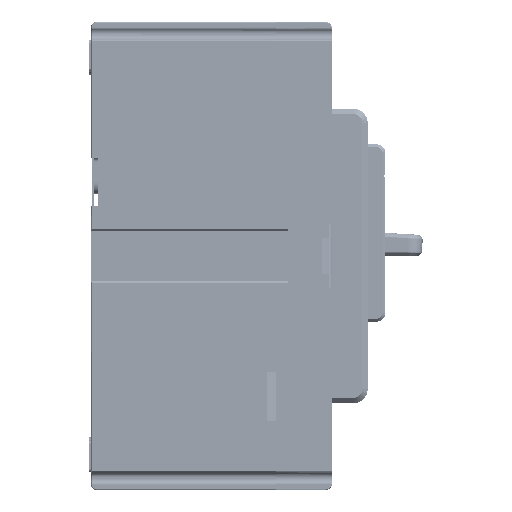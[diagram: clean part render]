
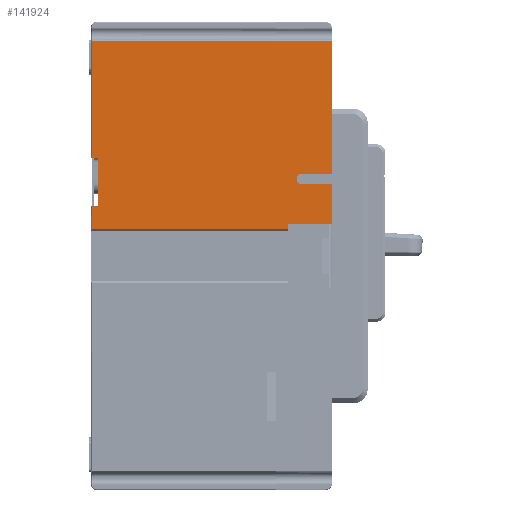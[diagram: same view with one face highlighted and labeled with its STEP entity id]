
A CAD part, left-side view. The second image highlights one B-rep face of the part: STEP entity #141924.
In plain terms, the highlighted planar face has unit normal (-1, 0, 0).
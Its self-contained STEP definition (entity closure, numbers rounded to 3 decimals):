
#4481=DIRECTION('',(0.,-1.,0.));
#4482=VECTOR('',#4481,12.2);
#4483=CARTESIAN_POINT('',(-63.5,-3.6,8.9));
#4484=LINE('',#4483,#4482);
#4552=DIRECTION('',(0.,0.,1.));
#4553=VECTOR('',#4552,1.4);
#4554=CARTESIAN_POINT('',(-63.5,-3.6,7.5));
#4555=LINE('',#4554,#4553);
#4580=DIRECTION('',(0.,0.,1.));
#4581=VECTOR('',#4580,0.139);
#4582=CARTESIAN_POINT('',(-63.5,0.,60.572));
#4583=LINE('',#4582,#4581);
#4584=CARTESIAN_POINT('',(-63.5,-7.5,21.7));
#4585=DIRECTION('',(-1.,0.,0.));
#4586=DIRECTION('',(0.,0.,1.));
#4587=AXIS2_PLACEMENT_3D('',#4584,#4585,#4586);
#4589=DIRECTION('',(0.,-1.,0.));
#4590=VECTOR('',#4589,8.3);
#4591=CARTESIAN_POINT('',(-63.5,-7.5,20.2));
#4592=LINE('',#4591,#4590);
#4593=DIRECTION('',(0.,1.,0.));
#4594=VECTOR('',#4593,55.3);
#4595=CARTESIAN_POINT('',(-63.5,-3.6,7.5));
#4596=LINE('',#4595,#4594);
#4597=DIRECTION('',(0.,0.,1.));
#4598=VECTOR('',#4597,13.6);
#4599=CARTESIAN_POINT('',(-63.5,50.,14.));
#4600=LINE('',#4599,#4598);
#4601=DIRECTION('',(0.,1.,0.));
#4602=VECTOR('',#4601,1.7);
#4603=CARTESIAN_POINT('',(-63.5,50.,27.6));
#4604=LINE('',#4603,#4602);
#4610=DIRECTION('',(0.,1.,0.));
#4611=VECTOR('',#4610,51.7);
#4612=CARTESIAN_POINT('',(-63.5,0.,60.572));
#4613=LINE('',#4612,#4611);
#5035=DIRECTION('',(0.,0.,-1.));
#5036=VECTOR('',#5035,32.972);
#5037=CARTESIAN_POINT('',(-63.5,51.7,60.572));
#5038=LINE('',#5037,#5036);
#5060=DIRECTION('',(0.,1.,0.));
#5061=VECTOR('',#5060,1.7);
#5062=CARTESIAN_POINT('',(-63.5,50.,14.));
#5063=LINE('',#5062,#5061);
#42221=DIRECTION('',(0.,0.,1.));
#42222=VECTOR('',#42221,37.51);
#42223=CARTESIAN_POINT('',(-63.5,-15.8,23.2));
#42224=LINE('',#42223,#42222);
#42233=DIRECTION('',(0.,-1.,0.));
#42234=VECTOR('',#42233,8.3);
#42235=CARTESIAN_POINT('',(-63.5,-7.5,23.2));
#42236=LINE('',#42235,#42234);
#42271=DIRECTION('',(0.,0.,1.));
#42272=VECTOR('',#42271,11.3);
#42273=CARTESIAN_POINT('',(-63.5,-15.8,8.9));
#42274=LINE('',#42273,#42272);
#42305=DIRECTION('',(0.,1.,0.));
#42306=VECTOR('',#42305,15.8);
#42307=CARTESIAN_POINT('',(-63.5,-15.8,60.71));
#42308=LINE('',#42307,#42306);
#101498=DIRECTION('',(0.,0.,-1.));
#101499=VECTOR('',#101498,6.5);
#101500=CARTESIAN_POINT('',(-63.5,51.7,14.));
#101501=LINE('',#101500,#101499);
#111507=CARTESIAN_POINT('',(-63.5,51.7,60.572));
#111508=VERTEX_POINT('',#111507);
#111509=CARTESIAN_POINT('',(-63.5,51.7,14.));
#111510=CARTESIAN_POINT('',(-63.5,51.7,7.5));
#111511=VERTEX_POINT('',#111509);
#111512=VERTEX_POINT('',#111510);
#111513=CARTESIAN_POINT('',(-63.5,50.,14.));
#111514=VERTEX_POINT('',#111513);
#111515=CARTESIAN_POINT('',(-63.5,50.,27.6));
#111516=VERTEX_POINT('',#111515);
#111517=CARTESIAN_POINT('',(-63.5,51.7,27.6));
#111518=VERTEX_POINT('',#111517);
#120950=CARTESIAN_POINT('',(-63.5,0.,60.71));
#120951=VERTEX_POINT('',#120950);
#121627=CARTESIAN_POINT('',(-63.5,-3.6,7.5));
#121628=VERTEX_POINT('',#121627);
#121665=CARTESIAN_POINT('',(-63.5,-3.6,8.9));
#121666=VERTEX_POINT('',#121665);
#124018=CARTESIAN_POINT('',(-63.5,-15.8,60.71));
#124019=VERTEX_POINT('',#124018);
#124020=CARTESIAN_POINT('',(-63.5,-15.8,23.2));
#124021=VERTEX_POINT('',#124020);
#124022=CARTESIAN_POINT('',(-63.5,-7.5,23.2));
#124024=VERTEX_POINT('',#124022);
#124030=CARTESIAN_POINT('',(-63.5,-7.5,20.2));
#124031=VERTEX_POINT('',#124030);
#124032=CARTESIAN_POINT('',(-63.5,-15.8,20.2));
#124033=VERTEX_POINT('',#124032);
#124034=CARTESIAN_POINT('',(-63.5,-15.8,8.9));
#124035=VERTEX_POINT('',#124034);
#128535=CARTESIAN_POINT('',(-63.5,0.,60.572));
#128536=VERTEX_POINT('',#128535);
#141888=CARTESIAN_POINT('',(-63.5,0.,-66.));
#141889=DIRECTION('',(-1.,0.,0.));
#141890=DIRECTION('',(0.,0.,1.));
#141891=AXIS2_PLACEMENT_3D('',#141888,#141889,#141890);
#141892=PLANE('',#141891);
#141894=ORIENTED_EDGE('',*,*,#141893,.F.);
#141896=ORIENTED_EDGE('',*,*,#141895,.T.);
#141898=ORIENTED_EDGE('',*,*,#141897,.F.);
#141900=ORIENTED_EDGE('',*,*,#141899,.F.);
#141902=ORIENTED_EDGE('',*,*,#141901,.F.);
#141904=ORIENTED_EDGE('',*,*,#141903,.T.);
#141906=ORIENTED_EDGE('',*,*,#141905,.T.);
#141908=ORIENTED_EDGE('',*,*,#141907,.F.);
#141909=ORIENTED_EDGE('',*,*,#141761,.F.);
#141910=ORIENTED_EDGE('',*,*,#141855,.F.);
#141911=ORIENTED_EDGE('',*,*,#141874,.T.);
#141913=ORIENTED_EDGE('',*,*,#141912,.F.);
#141915=ORIENTED_EDGE('',*,*,#141914,.F.);
#141917=ORIENTED_EDGE('',*,*,#141916,.T.);
#141919=ORIENTED_EDGE('',*,*,#141918,.T.);
#141921=ORIENTED_EDGE('',*,*,#141920,.F.);
#141922=EDGE_LOOP('',(#141894,#141896,#141898,#141900,#141902,#141904,#141906,
#141908,#141909,#141910,#141911,#141913,#141915,#141917,#141919,#141921));
#141923=FACE_OUTER_BOUND('',#141922,.F.);
#141924=ADVANCED_FACE('',(#141923),#141892,.T.);
#4588=CIRCLE('',#4587,1.5);
#141761=EDGE_CURVE('',#121666,#124035,#4484,.T.);
#141855=EDGE_CURVE('',#121628,#121666,#4555,.T.);
#141874=EDGE_CURVE('',#121628,#111512,#4596,.T.);
#141893=EDGE_CURVE('',#128536,#111508,#4613,.T.);
#141895=EDGE_CURVE('',#128536,#120951,#4583,.T.);
#141897=EDGE_CURVE('',#124019,#120951,#42308,.T.);
#141899=EDGE_CURVE('',#124021,#124019,#42224,.T.);
#141901=EDGE_CURVE('',#124024,#124021,#42236,.T.);
#141903=EDGE_CURVE('',#124024,#124031,#4588,.T.);
#141905=EDGE_CURVE('',#124031,#124033,#4592,.T.);
#141907=EDGE_CURVE('',#124035,#124033,#42274,.T.);
#141912=EDGE_CURVE('',#111511,#111512,#101501,.T.);
#141914=EDGE_CURVE('',#111514,#111511,#5063,.T.);
#141916=EDGE_CURVE('',#111514,#111516,#4600,.T.);
#141918=EDGE_CURVE('',#111516,#111518,#4604,.T.);
#141920=EDGE_CURVE('',#111508,#111518,#5038,.T.);
